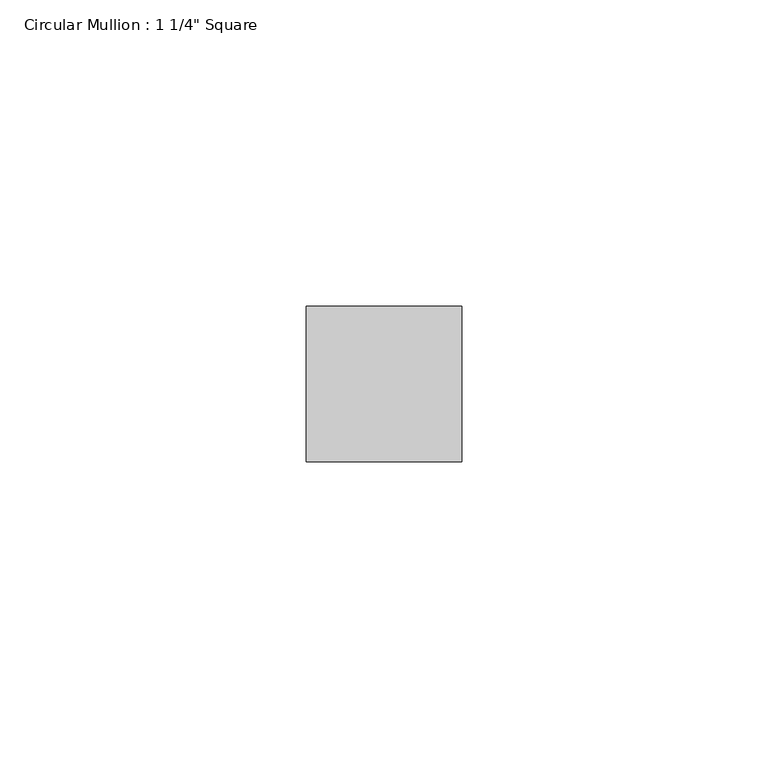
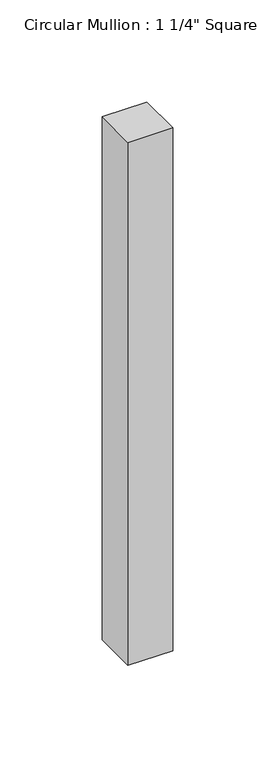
"""IFC4 building model written with IfcOpenShell, lengths in millimetres: member geometry."""

import ifcopenshell
import ifcopenshell.guid

model = None  # the IFC model being written
_history = None  # IfcOwnerHistory: only IFC2X3 demands one
_inside = {}  # id of a spatial element -> (the spatial element, [elements in it])
_under = {}  # id of a project, library or spatial element -> (it, [spatial elements below it])
_declared = {}  # id of a project -> (the project, [libraries it declares])
_typed = {}  # id of a type object -> (the type object, [elements of that type])
_made_of = {}  # id of a material, layer set ... -> (it, [elements and type objects made of it])


def new_model(schema):
    """Start an empty IFC model of exactly this schema.

    Asked for "IFC4X3", IfcOpenShell would pick the latest addendum, in which some entities
    have other attributes; the version numbers below select the first issue.
    IFC2X3 requires an IfcOwnerHistory on every rooted entity: one is made here for all.
    """
    global model, _history
    if schema == "IFC4X3":
        model = ifcopenshell.file(schema_version=(4, 3, 0, 0))
    else:
        model = ifcopenshell.file(schema=schema)
    _inside.clear()
    _under.clear()
    _declared.clear()
    _typed.clear()
    _made_of.clear()
    _history = None
    if model.schema == "IFC2X3":
        org = make("IfcOrganization", Name="unknown")
        user = make(
            "IfcPersonAndOrganization",
            ThePerson=make("IfcPerson", FamilyName="unknown"),
            TheOrganization=org,
        )
        app = make(
            "IfcApplication",
            ApplicationDeveloper=org,
            Version="unknown",
            ApplicationFullName="unknown",
            ApplicationIdentifier="unknown",
        )
        _history = make(
            "IfcOwnerHistory",
            OwningUser=user,
            OwningApplication=app,
            ChangeAction="ADDED",
            CreationDate=0,
        )
    return model


def make(cls, **values):
    """One entity of the class cls with the attributes given. An attribute that is None is left unset."""
    return model.create_entity(
        cls, **{name: value for name, value in values.items() if value is not None}
    )


def rooted(cls, **values):
    """An entity with a GlobalId (a new one), such as an element, a storey or a relation."""
    return make(cls, GlobalId=ifcopenshell.guid.new(), OwnerHistory=_history, **values)


def si_unit(unit_type, name, prefix=None):
    """IfcSIUnit, for example si_unit("LENGTHUNIT", "METRE", prefix="MILLI")."""
    return make("IfcSIUnit", UnitType=unit_type, Prefix=prefix, Name=name)


def assignment(units):
    """IfcUnitAssignment: the units of a project."""
    return None if units is None else make("IfcUnitAssignment", Units=units)


def point(xyz):
    """IfcCartesianPoint."""
    return None if xyz is None else make("IfcCartesianPoint", Coordinates=xyz)


def direction(xyz):
    """IfcDirection."""
    return None if xyz is None else make("IfcDirection", DirectionRatios=xyz)


def frame(location, z_axis=None, x_axis=None):
    """IfcAxis2Placement3D, a coordinate frame: its origin and axes. An axis left out is left unset."""
    return make(
        "IfcAxis2Placement3D",
        Location=point(location),
        Axis=direction(z_axis),
        RefDirection=direction(x_axis),
    )


def origin():
    """The frame at (0, 0, 0) with its axes left unset."""
    return frame((0.0, 0.0, 0.0))


def place(relative_to, where):
    """IfcLocalPlacement: puts the frame where relative to a parent placement (None: the world)."""
    return make(
        "IfcLocalPlacement", PlacementRelTo=relative_to, RelativePlacement=where
    )


def context(
    kind, dimensions, precision=None, world=None, true_north=None, identifier=None
):
    """IfcGeometricRepresentationContext, for example the 3D "Model" context."""
    return make(
        "IfcGeometricRepresentationContext",
        ContextIdentifier=identifier,
        ContextType=kind,
        CoordinateSpaceDimension=dimensions,
        Precision=precision,
        WorldCoordinateSystem=world,
        TrueNorth=true_north,
    )


def project(units=None, contexts=None):
    """IfcProject with its units and contexts."""
    return rooted(
        "IfcProject",
        Name="project",
        RepresentationContexts=contexts,
        UnitsInContext=assignment(units),
    )


def spatial(cls, under=None, at=None, **own):
    """A site, building, storey or space (cls), placed at a placement, below another one or the project."""
    s = rooted(cls, ObjectPlacement=at, **own)
    if under is not None:
        _under.setdefault(under.id(), (under, []))[1].append(s)
    return s


def polyline(points):
    """IfcPolyline through the points."""
    return make("IfcPolyline", Points=[point(p) for p in points])


def outline(outer, holes=None, kind="AREA"):
    """IfcArbitraryClosedProfileDef: a profile drawn as a closed curve; with holes, ...WithVoids."""
    if holes is None:
        return make("IfcArbitraryClosedProfileDef", ProfileType=kind, OuterCurve=outer)
    return make(
        "IfcArbitraryProfileDefWithVoids",
        ProfileType=kind,
        OuterCurve=outer,
        InnerCurves=holes,
    )


def extrude(swept, where, along, depth):
    """IfcExtrudedAreaSolid: the profile swept, set in the frame where, extruded along a direction by depth."""
    return make(
        "IfcExtrudedAreaSolid",
        SweptArea=swept,
        Position=where,
        ExtrudedDirection=direction(along),
        Depth=depth,
    )


def shape(context_of_items, identifier, shape_type, items):
    """IfcShapeRepresentation: the items that make up one representation, for example the "Body"."""
    return make(
        "IfcShapeRepresentation",
        ContextOfItems=context_of_items,
        RepresentationIdentifier=identifier,
        RepresentationType=shape_type,
        Items=items,
    )


def source(mapping_origin, context_of_items, identifier, shape_type, items):
    """IfcRepresentationMap: a shape defined once, which mapped items show again and again."""
    return make(
        "IfcRepresentationMap",
        MappingOrigin=mapping_origin,
        MappedRepresentation=shape(context_of_items, identifier, shape_type, items),
    )


def transform(
    local_origin,
    x_axis=None,
    y_axis=None,
    z_axis=None,
    scale=None,
    scale2=None,
    scale3=None,
    uniform=True,
):
    """IfcCartesianTransformationOperator3D, or its non-uniform kind. x_axis, y_axis, z_axis: its Axis1, 2, 3."""
    if uniform:
        return make(
            "IfcCartesianTransformationOperator3D",
            Axis1=direction(x_axis),
            Axis2=direction(y_axis),
            LocalOrigin=point(local_origin),
            Scale=scale,
            Axis3=direction(z_axis),
        )
    return make(
        "IfcCartesianTransformationOperator3DnonUniform",
        Axis1=direction(x_axis),
        Axis2=direction(y_axis),
        LocalOrigin=point(local_origin),
        Scale=scale,
        Axis3=direction(z_axis),
        Scale2=scale2,
        Scale3=scale3,
    )


def mapped(mapping_source, mapping_target):
    """IfcMappedItem: shows the shape of a source again, moved by a transform."""
    return make(
        "IfcMappedItem", MappingSource=mapping_source, MappingTarget=mapping_target
    )


def made_of(thing, what):
    """Note that an element or type object is made of a material, layer set ...; save() writes the relation."""
    if what is not None:
        _made_of.setdefault(what.id(), (what, []))[1].append(thing)
    return thing


def element(
    cls,
    number,
    at=None,
    inside=None,
    cuts=None,
    type_object=None,
    material=None,
    context=None,
    identifier="Body",
    shape_type=None,
    held_by="IfcProductDefinitionShape",
    body=None,
    shapes=None,
    **own,
):
    """One element of the class cls, such as IfcWall. Its Tag is "e" and its number.

    at: its placement. inside: the storey or other place that contains it. cuts: it is an
    opening in that element (IfcRelVoidsElement). A single representation is given by context,
    identifier, shape_type and body (its items); several are given by shapes. held_by: the class
    of the entity that holds the representations. save() writes the other relations.
    """
    e = rooted(cls, Tag="e%d" % number, ObjectPlacement=at, **own)
    if body is not None:
        shapes = [shape(context, identifier, shape_type, body)]
    if shapes is not None:
        e.Representation = make(held_by, Representations=shapes)
    if inside is not None:
        _inside.setdefault(inside.id(), (inside, []))[1].append(e)
    if cuts is not None:
        rooted(
            "IfcRelVoidsElement", RelatingBuildingElement=cuts, RelatedOpeningElement=e
        )
    if type_object is not None:
        _typed.setdefault(type_object.id(), (type_object, []))[1].append(e)
    return made_of(e, material)


def aggregate(whole, parts):
    """IfcRelAggregates: a whole, such as a stair, and the parts it consists of."""
    return rooted("IfcRelAggregates", RelatingObject=whole, RelatedObjects=parts)


def save(model, path):
    """Write the relations noted so far, then the file.

    IfcRelAggregates (storeys below a building ...), IfcRelContainedInSpatialStructure (elements
    in a storey), IfcRelDefinesByType, IfcRelAssociatesMaterial and IfcRelDeclares: one each for
    every whole, place, type object, material and project.
    """
    for whole, parts in _under.values():
        aggregate(whole, parts)
    for where, things in _inside.values():
        rooted(
            "IfcRelContainedInSpatialStructure",
            RelatedElements=things,
            RelatingStructure=where,
        )
    for kind, things in _typed.values():
        rooted("IfcRelDefinesByType", RelatedObjects=things, RelatingType=kind)
    for what, things in _made_of.values():
        rooted("IfcRelAssociatesMaterial", RelatedObjects=things, RelatingMaterial=what)
    for by, libraries in _declared.values():
        rooted("IfcRelDeclares", RelatingContext=by, RelatedDefinitions=libraries)
    model.write(path)


def member_9a471d53(model_context):
    return source(origin(), model_context, "Body", "SweptSolid", [
        extrude(outline(polyline([(12.7, 12.7), (12.7, -12.7), (-12.7, -12.7), (-12.7, 12.7), (12.7, 12.7)])), frame((0.0, 0.0, -312.9370874), z_axis=(0.0, 0.0, 1.0), x_axis=(1.0, 0.0, 0.0)), (0.0, 0.0, 1.0), 312.9370874),
    ])


if __name__ == "__main__":
    model = new_model("IFC4")
    model_context = context("Model", 3, world=origin())
    ifc_project = project(units=[si_unit("LENGTHUNIT", "METRE", prefix="MILLI")], contexts=[model_context])
    site = spatial("IfcSite", under=ifc_project)
    building = spatial("IfcBuilding", under=site)
    placement = place(None, origin())
    member_shape = member_9a471d53(model_context)
    element("IfcMember", 1, ObjectType="Circular Mullion : 1 1/4\" Square", at=placement, inside=building, context=model_context, shape_type="MappedRepresentation", body=[
        mapped(member_shape, transform((0.0, 0.0, 0.0), x_axis=(1.0, 0.0, 0.0), y_axis=(0.0, 1.0, 0.0), z_axis=(0.0, 0.0, 1.0))),
    ])
    save(model, "model.ifc")
